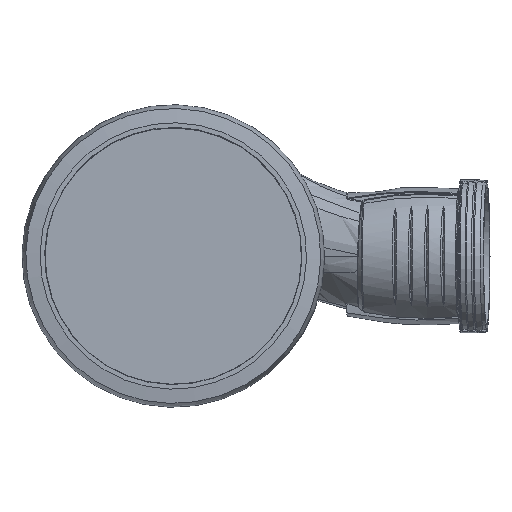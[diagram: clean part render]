
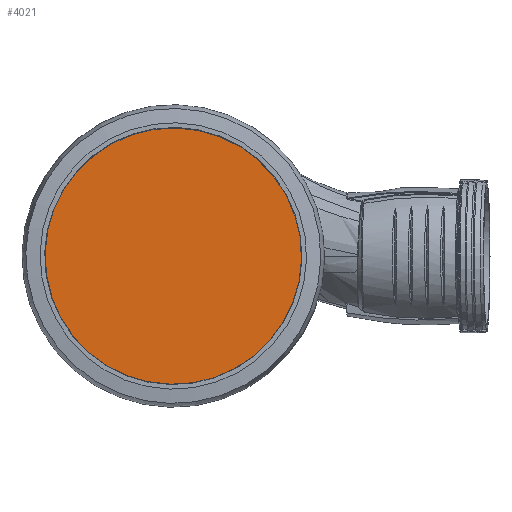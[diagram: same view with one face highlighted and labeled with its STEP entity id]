
A CAD part, top view. The second image highlights one B-rep face of the part: STEP entity #4021.
In plain terms, the highlighted planar face has unit normal (0, 0, 1).
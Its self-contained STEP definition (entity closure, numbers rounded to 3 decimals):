
#21=PLANE('',#4365);
#862=FACE_OUTER_BOUND('',#1098,.T.);
#1098=EDGE_LOOP('',(#3157));
#1255=CIRCLE('',#4203,55.5);
#1530=VERTEX_POINT('',#11269);
#1968=EDGE_CURVE('',#1530,#1530,#1255,.T.);
#3157=ORIENTED_EDGE('',*,*,#1968,.T.);
#4021=ADVANCED_FACE('',(#862),#21,.T.);
#4203=AXIS2_PLACEMENT_3D('',#11270,#4600,#4601);
#4365=AXIS2_PLACEMENT_3D('',#19919,#4959,#4960);
#4600=DIRECTION('center_axis',(0.,0.,1.));
#4601=DIRECTION('ref_axis',(0.479,-0.878,0.));
#4959=DIRECTION('center_axis',(0.,0.,1.));
#4960=DIRECTION('ref_axis',(1.,0.,0.));
#11269=CARTESIAN_POINT('',(-26.608,48.706,17.5));
#11270=CARTESIAN_POINT('Origin',(0.,0.,
17.5));
#19919=CARTESIAN_POINT('Origin',(0.,0.,
17.5));
